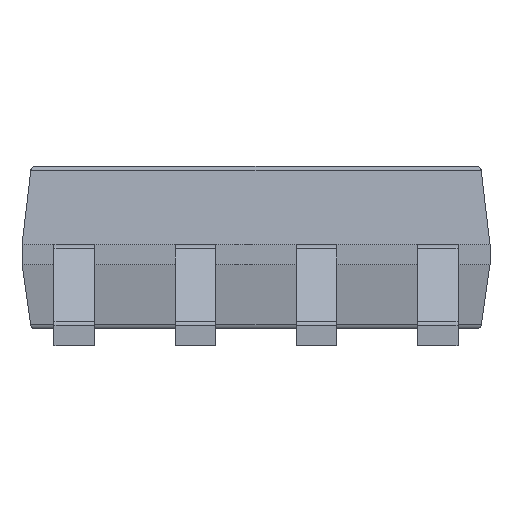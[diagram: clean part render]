
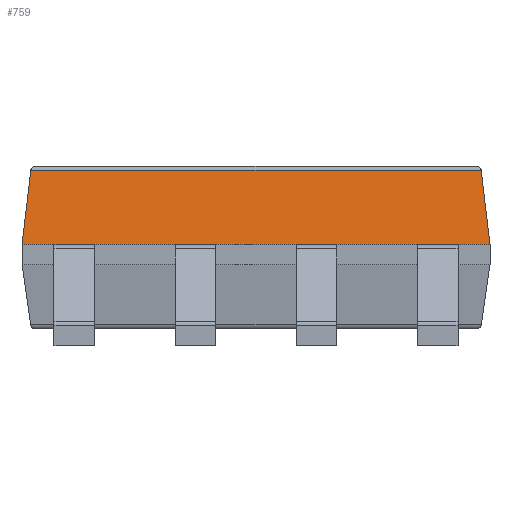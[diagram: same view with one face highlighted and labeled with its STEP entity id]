
A CAD part, left-side view. The second image highlights one B-rep face of the part: STEP entity #759.
In plain terms, the highlighted planar face has unit normal (-0.993, 0, 0.118).
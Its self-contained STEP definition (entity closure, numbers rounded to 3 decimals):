
#87 = PLANE('',#88);
#88 = AXIS2_PLACEMENT_3D('',#89,#90,#91);
#89 = CARTESIAN_POINT('',(-1.95,-2.45,0.176));
#90 = DIRECTION('',(1.,0.,0.));
#91 = DIRECTION('',(0.,0.,1.));
#350 = VERTEX_POINT('',#351);
#351 = CARTESIAN_POINT('',(-1.95,-2.45,1.059));
#374 = VERTEX_POINT('',#375);
#375 = CARTESIAN_POINT('',(-1.95,2.45,1.059));
#401 = EDGE_CURVE('',#350,#374,#402,.T.);
#402 = SURFACE_CURVE('',#403,(#407,#414),.PCURVE_S1.);
#403 = LINE('',#404,#405);
#404 = CARTESIAN_POINT('',(-1.95,-2.45,1.059));
#405 = VECTOR('',#406,1.);
#406 = DIRECTION('',(0.,1.,0.));
#407 = PCURVE('',#87,#408);
#408 = DEFINITIONAL_REPRESENTATION('',(#409),#413);
#409 = LINE('',#410,#411);
#410 = CARTESIAN_POINT('',(0.883,0.));
#411 = VECTOR('',#412,1.);
#412 = DIRECTION('',(0.,-1.));
#413 = ( GEOMETRIC_REPRESENTATION_CONTEXT(2) 
PARAMETRIC_REPRESENTATION_CONTEXT() REPRESENTATION_CONTEXT('2D SPACE',''
  ) );
#414 = PCURVE('',#415,#420);
#415 = PLANE('',#416);
#416 = AXIS2_PLACEMENT_3D('',#417,#418,#419);
#417 = CARTESIAN_POINT('',(-1.901,-2.45,1.469));
#418 = DIRECTION('',(0.993,0.,-0.118));
#419 = DIRECTION('',(0.,1.,0.));
#420 = DEFINITIONAL_REPRESENTATION('',(#421),#425);
#421 = LINE('',#422,#423);
#422 = CARTESIAN_POINT('',(0.,-0.413));
#423 = VECTOR('',#424,1.);
#424 = DIRECTION('',(1.,0.));
#425 = ( GEOMETRIC_REPRESENTATION_CONTEXT(2) 
PARAMETRIC_REPRESENTATION_CONTEXT() REPRESENTATION_CONTEXT('2D SPACE',''
  ) );
#612 = PLANE('',#613);
#613 = AXIS2_PLACEMENT_3D('',#614,#615,#616);
#614 = CARTESIAN_POINT('',(-1.95,-2.401,1.469));
#615 = DIRECTION('',(0.,0.993,-0.118)
  );
#616 = DIRECTION('',(-1.,0.,0.));
#759 = ADVANCED_FACE('',(#760),#415,.F.);
#760 = FACE_BOUND('',#761,.F.);
#761 = EDGE_LOOP('',(#762,#785,#786,#814));
#762 = ORIENTED_EDGE('',*,*,#763,.F.);
#763 = EDGE_CURVE('',#350,#764,#766,.T.);
#764 = VERTEX_POINT('',#765);
#765 = CARTESIAN_POINT('',(-1.858,-2.358,
    1.835));
#766 = SURFACE_CURVE('',#767,(#771,#778),.PCURVE_S1.);
#767 = LINE('',#768,#769);
#768 = CARTESIAN_POINT('',(-1.902,-2.402,
    1.463));
#769 = VECTOR('',#770,1.);
#770 = DIRECTION('',(0.117,0.117,0.986));
#771 = PCURVE('',#415,#772);
#772 = DEFINITIONAL_REPRESENTATION('',(#773),#777);
#773 = LINE('',#774,#775);
#774 = CARTESIAN_POINT('',(0.048,-0.006));
#775 = VECTOR('',#776,1.);
#776 = DIRECTION('',(0.117,0.993));
#777 = ( GEOMETRIC_REPRESENTATION_CONTEXT(2) 
PARAMETRIC_REPRESENTATION_CONTEXT() REPRESENTATION_CONTEXT('2D SPACE',''
  ) );
#778 = PCURVE('',#612,#779);
#779 = DEFINITIONAL_REPRESENTATION('',(#780),#784);
#780 = LINE('',#781,#782);
#781 = CARTESIAN_POINT('',(-0.048,-0.006));
#782 = VECTOR('',#783,1.);
#783 = DIRECTION('',(-0.117,0.993));
#784 = ( GEOMETRIC_REPRESENTATION_CONTEXT(2) 
PARAMETRIC_REPRESENTATION_CONTEXT() REPRESENTATION_CONTEXT('2D SPACE',''
  ) );
#785 = ORIENTED_EDGE('',*,*,#401,.T.);
#786 = ORIENTED_EDGE('',*,*,#787,.T.);
#787 = EDGE_CURVE('',#374,#788,#790,.T.);
#788 = VERTEX_POINT('',#789);
#789 = CARTESIAN_POINT('',(-1.858,2.358,1.835
    ));
#790 = SURFACE_CURVE('',#791,(#795,#802),.PCURVE_S1.);
#791 = LINE('',#792,#793);
#792 = CARTESIAN_POINT('',(-1.868,2.368,1.746
    ));
#793 = VECTOR('',#794,1.);
#794 = DIRECTION('',(0.117,-0.117,0.986));
#795 = PCURVE('',#415,#796);
#796 = DEFINITIONAL_REPRESENTATION('',(#797),#801);
#797 = LINE('',#798,#799);
#798 = CARTESIAN_POINT('',(4.818,0.28));
#799 = VECTOR('',#800,1.);
#800 = DIRECTION('',(-0.117,0.993));
#801 = ( GEOMETRIC_REPRESENTATION_CONTEXT(2) 
PARAMETRIC_REPRESENTATION_CONTEXT() REPRESENTATION_CONTEXT('2D SPACE',''
  ) );
#802 = PCURVE('',#803,#808);
#803 = PLANE('',#804);
#804 = AXIS2_PLACEMENT_3D('',#805,#806,#807);
#805 = CARTESIAN_POINT('',(-1.95,2.401,1.469));
#806 = DIRECTION('',(0.,0.993,0.118)
  );
#807 = DIRECTION('',(-1.,0.,0.));
#808 = DEFINITIONAL_REPRESENTATION('',(#809),#813);
#809 = LINE('',#810,#811);
#810 = CARTESIAN_POINT('',(-0.082,0.28));
#811 = VECTOR('',#812,1.);
#812 = DIRECTION('',(-0.117,0.993));
#813 = ( GEOMETRIC_REPRESENTATION_CONTEXT(2) 
PARAMETRIC_REPRESENTATION_CONTEXT() REPRESENTATION_CONTEXT('2D SPACE',''
  ) );
#814 = ORIENTED_EDGE('',*,*,#815,.F.);
#815 = EDGE_CURVE('',#764,#788,#816,.T.);
#816 = SURFACE_CURVE('',#817,(#821,#828),.PCURVE_S1.);
#817 = LINE('',#818,#819);
#818 = CARTESIAN_POINT('',(-1.858,-2.353,1.835));
#819 = VECTOR('',#820,1.);
#820 = DIRECTION('',(0.,1.,0.));
#821 = PCURVE('',#415,#822);
#822 = DEFINITIONAL_REPRESENTATION('',(#823),#827);
#823 = LINE('',#824,#825);
#824 = CARTESIAN_POINT('',(0.098,0.369));
#825 = VECTOR('',#826,1.);
#826 = DIRECTION('',(1.,0.));
#827 = ( GEOMETRIC_REPRESENTATION_CONTEXT(2) 
PARAMETRIC_REPRESENTATION_CONTEXT() REPRESENTATION_CONTEXT('2D SPACE',''
  ) );
#828 = PCURVE('',#829,#834);
#829 = CYLINDRICAL_SURFACE('',#830,0.05);
#830 = AXIS2_PLACEMENT_3D('',#831,#832,#833);
#831 = CARTESIAN_POINT('',(-1.808,-2.353,1.829));
#832 = DIRECTION('',(0.,1.,0.));
#833 = DIRECTION('',(-0.993,0.,0.118));
#834 = DEFINITIONAL_REPRESENTATION('',(#835),#839);
#835 = LINE('',#836,#837);
#836 = CARTESIAN_POINT('',(0.,0.));
#837 = VECTOR('',#838,1.);
#838 = DIRECTION('',(0.,1.));
#839 = ( GEOMETRIC_REPRESENTATION_CONTEXT(2) 
PARAMETRIC_REPRESENTATION_CONTEXT() REPRESENTATION_CONTEXT('2D SPACE',''
  ) );
